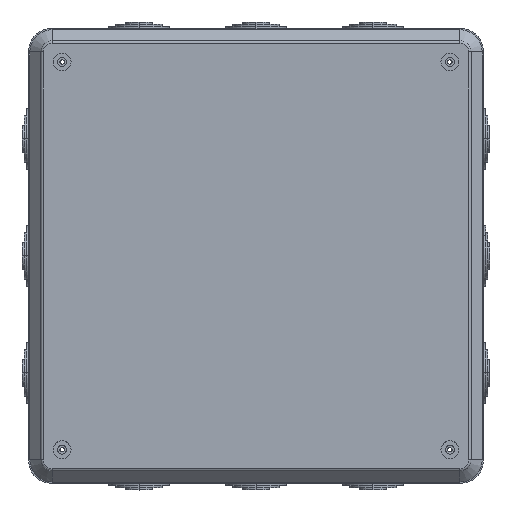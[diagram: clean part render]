
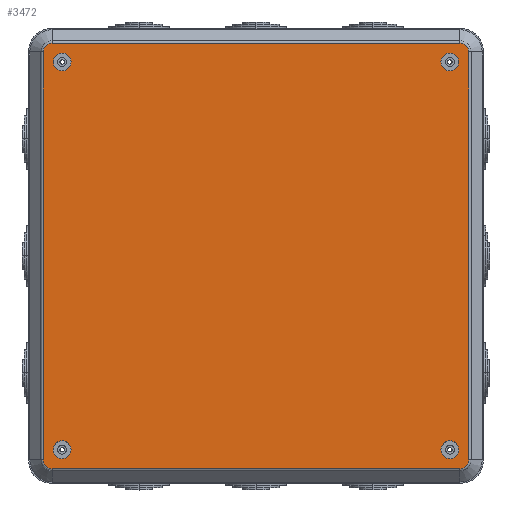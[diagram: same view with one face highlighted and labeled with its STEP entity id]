
A CAD part, top view. The second image highlights one B-rep face of the part: STEP entity #3472.
In plain terms, the highlighted planar face has unit normal (0, 0, 1).
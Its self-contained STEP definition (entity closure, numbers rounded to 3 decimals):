
#251 = DIRECTION ( 'NONE',  ( 1., 0., 0. ) ) ;
#299 = CARTESIAN_POINT ( 'NONE',  ( -83., 87., 24. ) ) ;
#301 = ORIENTED_EDGE ( 'NONE', *, *, #15891, .T. ) ;
#354 = DIRECTION ( 'NONE',  ( 1., 0., 0. ) ) ;
#383 = EDGE_CURVE ( 'NONE', #9094, #6625, #3409, .T. ) ;
#404 = CARTESIAN_POINT ( 'NONE',  ( 0., 0., 24. ) ) ;
#493 = CIRCLE ( 'NONE', #13714, 4. ) ;
#543 = CARTESIAN_POINT ( 'NONE',  ( -87., -87., 24. ) ) ;
#952 = ORIENTED_EDGE ( 'NONE', *, *, #5833, .T. ) ;
#993 = CIRCLE ( 'NONE', #10936, 4. ) ;
#1261 = EDGE_CURVE ( 'NONE', #2770, #9999, #12281, .T. ) ;
#1500 = CIRCLE ( 'NONE', #5131, 4. ) ;
#1672 = CARTESIAN_POINT ( 'NONE',  ( 91., -87., 24. ) ) ;
#1692 = CIRCLE ( 'NONE', #10946, 4. ) ;
#1787 = CARTESIAN_POINT ( 'NONE',  ( -91.5, -91.5, 24. ) ) ;
#1809 = EDGE_LOOP ( 'NONE', ( #2656, #2086 ) ) ;
#1815 = CARTESIAN_POINT ( 'NONE',  ( -91.5, -95.5, 24. ) ) ;
#2086 = ORIENTED_EDGE ( 'NONE', *, *, #1261, .T. ) ;
#2101 = CARTESIAN_POINT ( 'NONE',  ( 87., -87., 24. ) ) ;
#2357 = CARTESIAN_POINT ( 'NONE',  ( 87., 87., 24. ) ) ;
#2410 = VERTEX_POINT ( 'NONE', #8908 ) ;
#2463 = CARTESIAN_POINT ( 'NONE',  ( 87., -87., 24. ) ) ;
#2656 = ORIENTED_EDGE ( 'NONE', *, *, #4322, .T. ) ;
#2770 = VERTEX_POINT ( 'NONE', #15075 ) ;
#2783 = EDGE_LOOP ( 'NONE', ( #6540, #6917, #6759, #10302, #4356, #4790, #301, #10555 ) ) ;
#2893 = CARTESIAN_POINT ( 'NONE',  ( 91., 87., 24. ) ) ;
#2894 = FACE_BOUND ( 'NONE', #12761, .T. ) ;
#3113 = CARTESIAN_POINT ( 'NONE',  ( -87., 87., 24. ) ) ;
#3264 = CARTESIAN_POINT ( 'NONE',  ( -91., 87., 24. ) ) ;
#3377 = DIRECTION ( 'NONE',  ( -1., 0., 0. ) ) ;
#3409 = CIRCLE ( 'NONE', #16361, 4. ) ;
#3472 = ADVANCED_FACE ( 'NONE', ( #6660, #2894, #7479, #11417, #9631 ), #12934, .T. ) ;
#3549 = EDGE_CURVE ( 'NONE', #2410, #7190, #5660, .T. ) ;
#3869 = EDGE_CURVE ( 'NONE', #8742, #2410, #8254, .T. ) ;
#3936 = AXIS2_PLACEMENT_3D ( 'NONE', #1787, #10664, #7178 ) ;
#4050 = EDGE_CURVE ( 'NONE', #13841, #8742, #1692, .T. ) ;
#4217 = AXIS2_PLACEMENT_3D ( 'NONE', #404, #15676, #6842 ) ;
#4303 = VERTEX_POINT ( 'NONE', #4627 ) ;
#4311 = DIRECTION ( 'NONE',  ( -1., 0., 0. ) ) ;
#4322 = EDGE_CURVE ( 'NONE', #9999, #2770, #10002, .T. ) ;
#4356 = ORIENTED_EDGE ( 'NONE', *, *, #4456, .T. ) ;
#4415 = DIRECTION ( 'NONE',  ( 1., 0., 0. ) ) ;
#4456 = EDGE_CURVE ( 'NONE', #10351, #4303, #6225, .T. ) ;
#4627 = CARTESIAN_POINT ( 'NONE',  ( -95.5, -91.5, 24. ) ) ;
#4790 = ORIENTED_EDGE ( 'NONE', *, *, #12787, .T. ) ;
#4801 = CIRCLE ( 'NONE', #9351, 4. ) ;
#4807 = EDGE_CURVE ( 'NONE', #15562, #13130, #11580, .T. ) ;
#4874 = ORIENTED_EDGE ( 'NONE', *, *, #4807, .F. ) ;
#4946 = DIRECTION ( 'NONE',  ( 0., 0., 1. ) ) ;
#5131 = AXIS2_PLACEMENT_3D ( 'NONE', #3113, #15726, #4415 ) ;
#5557 = VERTEX_POINT ( 'NONE', #8465 ) ;
#5660 = CIRCLE ( 'NONE', #7670, 4. ) ;
#5833 = EDGE_CURVE ( 'NONE', #5557, #8814, #4801, .T. ) ;
#6225 = LINE ( 'NONE', #9846, #16315 ) ;
#6363 = CARTESIAN_POINT ( 'NONE',  ( 95.5, 91.5, 24. ) ) ;
#6540 = ORIENTED_EDGE ( 'NONE', *, *, #3869, .T. ) ;
#6592 = DIRECTION ( 'NONE',  ( 0., 0., 1. ) ) ;
#6612 = ORIENTED_EDGE ( 'NONE', *, *, #8918, .F. ) ;
#6625 = VERTEX_POINT ( 'NONE', #1672 ) ;
#6660 = FACE_BOUND ( 'NONE', #13520, .T. ) ;
#6759 = ORIENTED_EDGE ( 'NONE', *, *, #15476, .T. ) ;
#6842 = DIRECTION ( 'NONE',  ( 1., 0., 0. ) ) ;
#6917 = ORIENTED_EDGE ( 'NONE', *, *, #3549, .T. ) ;
#6955 = ORIENTED_EDGE ( 'NONE', *, *, #383, .F. ) ;
#6976 = CARTESIAN_POINT ( 'NONE',  ( -91.5, 95.5, 24. ) ) ;
#7178 = DIRECTION ( 'NONE',  ( 1., 0., 0. ) ) ;
#7190 = VERTEX_POINT ( 'NONE', #12954 ) ;
#7212 = CARTESIAN_POINT ( 'NONE',  ( -87., -87., 24. ) ) ;
#7469 = AXIS2_PLACEMENT_3D ( 'NONE', #10494, #14333, #11862 ) ;
#7474 = DIRECTION ( 'NONE',  ( 0., 0., 1. ) ) ;
#7479 = FACE_BOUND ( 'NONE', #1809, .T. ) ;
#7495 = DIRECTION ( 'NONE',  ( 1., 0., 0. ) ) ;
#7670 = AXIS2_PLACEMENT_3D ( 'NONE', #10562, #7978, #354 ) ;
#7978 = DIRECTION ( 'NONE',  ( 0., 0., 1. ) ) ;
#8203 = VECTOR ( 'NONE', #251, 1000. ) ;
#8254 = LINE ( 'NONE', #6363, #14553 ) ;
#8327 = CIRCLE ( 'NONE', #3936, 4. ) ;
#8465 = CARTESIAN_POINT ( 'NONE',  ( 83., 87., 24. ) ) ;
#8528 = DIRECTION ( 'NONE',  ( 0., 0., -1. ) ) ;
#8715 = ORIENTED_EDGE ( 'NONE', *, *, #11298, .F. ) ;
#8742 = VERTEX_POINT ( 'NONE', #12917 ) ;
#8792 = DIRECTION ( 'NONE',  ( -1., 0., 0. ) ) ;
#8814 = VERTEX_POINT ( 'NONE', #2893 ) ;
#8908 = CARTESIAN_POINT ( 'NONE',  ( 95.5, 91.5, 24. ) ) ;
#8918 = EDGE_CURVE ( 'NONE', #13130, #15562, #1500, .T. ) ;
#9094 = VERTEX_POINT ( 'NONE', #12466 ) ;
#9113 = CARTESIAN_POINT ( 'NONE',  ( 91.5, -95.5, 24. ) ) ;
#9310 = VERTEX_POINT ( 'NONE', #15592 ) ;
#9317 = VERTEX_POINT ( 'NONE', #1815 ) ;
#9351 = AXIS2_PLACEMENT_3D ( 'NONE', #2357, #15077, #8792 ) ;
#9439 = DIRECTION ( 'NONE',  ( 0., 0., -1. ) ) ;
#9631 = FACE_BOUND ( 'NONE', #10797, .T. ) ;
#9791 = DIRECTION ( 'NONE',  ( 1., 0., 0. ) ) ;
#9846 = CARTESIAN_POINT ( 'NONE',  ( -95.5, -91.5, 24. ) ) ;
#9999 = VERTEX_POINT ( 'NONE', #10137 ) ;
#10002 = CIRCLE ( 'NONE', #14753, 4. ) ;
#10137 = CARTESIAN_POINT ( 'NONE',  ( -83., -87., 24. ) ) ;
#10302 = ORIENTED_EDGE ( 'NONE', *, *, #12534, .T. ) ;
#10351 = VERTEX_POINT ( 'NONE', #15221 ) ;
#10494 = CARTESIAN_POINT ( 'NONE',  ( -87., 87., 24. ) ) ;
#10542 = DIRECTION ( 'NONE',  ( 1., 0., 0. ) ) ;
#10555 = ORIENTED_EDGE ( 'NONE', *, *, #4050, .T. ) ;
#10562 = CARTESIAN_POINT ( 'NONE',  ( 91.5, 91.5, 24. ) ) ;
#10664 = DIRECTION ( 'NONE',  ( 0., 0., 1. ) ) ;
#10695 = DIRECTION ( 'NONE',  ( 0., 0., -1. ) ) ;
#10797 = EDGE_LOOP ( 'NONE', ( #6612, #4874 ) ) ;
#10884 = AXIS2_PLACEMENT_3D ( 'NONE', #543, #10695, #10542 ) ;
#10936 = AXIS2_PLACEMENT_3D ( 'NONE', #15036, #4946, #7495 ) ;
#10946 = AXIS2_PLACEMENT_3D ( 'NONE', #14164, #6592, #15438 ) ;
#10976 = DIRECTION ( 'NONE',  ( 0., 0., 1. ) ) ;
#11298 = EDGE_CURVE ( 'NONE', #6625, #9094, #14870, .T. ) ;
#11417 = FACE_OUTER_BOUND ( 'NONE', #2783, .T. ) ;
#11549 = LINE ( 'NONE', #9113, #8203 ) ;
#11580 = CIRCLE ( 'NONE', #7469, 4. ) ;
#11796 = ORIENTED_EDGE ( 'NONE', *, *, #14420, .T. ) ;
#11862 = DIRECTION ( 'NONE',  ( 1., 0., 0. ) ) ;
#12281 = CIRCLE ( 'NONE', #10884, 4. ) ;
#12405 = DIRECTION ( 'NONE',  ( 0., -1., 0. ) ) ;
#12466 = CARTESIAN_POINT ( 'NONE',  ( 83., -87., 24. ) ) ;
#12534 = EDGE_CURVE ( 'NONE', #9310, #10351, #993, .T. ) ;
#12684 = DIRECTION ( 'NONE',  ( 0., 1., 0. ) ) ;
#12728 = AXIS2_PLACEMENT_3D ( 'NONE', #2463, #7474, #14909 ) ;
#12761 = EDGE_LOOP ( 'NONE', ( #8715, #6955 ) ) ;
#12787 = EDGE_CURVE ( 'NONE', #4303, #9317, #8327, .T. ) ;
#12917 = CARTESIAN_POINT ( 'NONE',  ( 95.5, -91.5, 24. ) ) ;
#12934 = PLANE ( 'NONE',  #4217 ) ;
#12954 = CARTESIAN_POINT ( 'NONE',  ( 91.5, 95.5, 24. ) ) ;
#13130 = VERTEX_POINT ( 'NONE', #299 ) ;
#13163 = CARTESIAN_POINT ( 'NONE',  ( 87., 87., 24. ) ) ;
#13520 = EDGE_LOOP ( 'NONE', ( #11796, #952 ) ) ;
#13714 = AXIS2_PLACEMENT_3D ( 'NONE', #13163, #9439, #4311 ) ;
#13841 = VERTEX_POINT ( 'NONE', #15594 ) ;
#14164 = CARTESIAN_POINT ( 'NONE',  ( 91.5, -91.5, 24. ) ) ;
#14333 = DIRECTION ( 'NONE',  ( 0., 0., 1. ) ) ;
#14420 = EDGE_CURVE ( 'NONE', #8814, #5557, #493, .T. ) ;
#14475 = DIRECTION ( 'NONE',  ( -1., 0., 0. ) ) ;
#14553 = VECTOR ( 'NONE', #12684, 1000. ) ;
#14753 = AXIS2_PLACEMENT_3D ( 'NONE', #7212, #8528, #9791 ) ;
#14870 = CIRCLE ( 'NONE', #12728, 4. ) ;
#14909 = DIRECTION ( 'NONE',  ( -1., 0., 0. ) ) ;
#15036 = CARTESIAN_POINT ( 'NONE',  ( -91.5, 91.5, 24. ) ) ;
#15075 = CARTESIAN_POINT ( 'NONE',  ( -91., -87., 24. ) ) ;
#15077 = DIRECTION ( 'NONE',  ( 0., 0., -1. ) ) ;
#15221 = CARTESIAN_POINT ( 'NONE',  ( -95.5, 91.5, 24. ) ) ;
#15438 = DIRECTION ( 'NONE',  ( 1., 0., 0. ) ) ;
#15476 = EDGE_CURVE ( 'NONE', #7190, #9310, #16287, .T. ) ;
#15562 = VERTEX_POINT ( 'NONE', #3264 ) ;
#15592 = CARTESIAN_POINT ( 'NONE',  ( -91.5, 95.5, 24. ) ) ;
#15594 = CARTESIAN_POINT ( 'NONE',  ( 91.5, -95.5, 24. ) ) ;
#15676 = DIRECTION ( 'NONE',  ( 0., 0., 1. ) ) ;
#15726 = DIRECTION ( 'NONE',  ( 0., 0., 1. ) ) ;
#15891 = EDGE_CURVE ( 'NONE', #9317, #13841, #11549, .T. ) ;
#15902 = VECTOR ( 'NONE', #14475, 1000. ) ;
#16287 = LINE ( 'NONE', #6976, #15902 ) ;
#16315 = VECTOR ( 'NONE', #12405, 1000. ) ;
#16361 = AXIS2_PLACEMENT_3D ( 'NONE', #2101, #10976, #3377 ) ;
